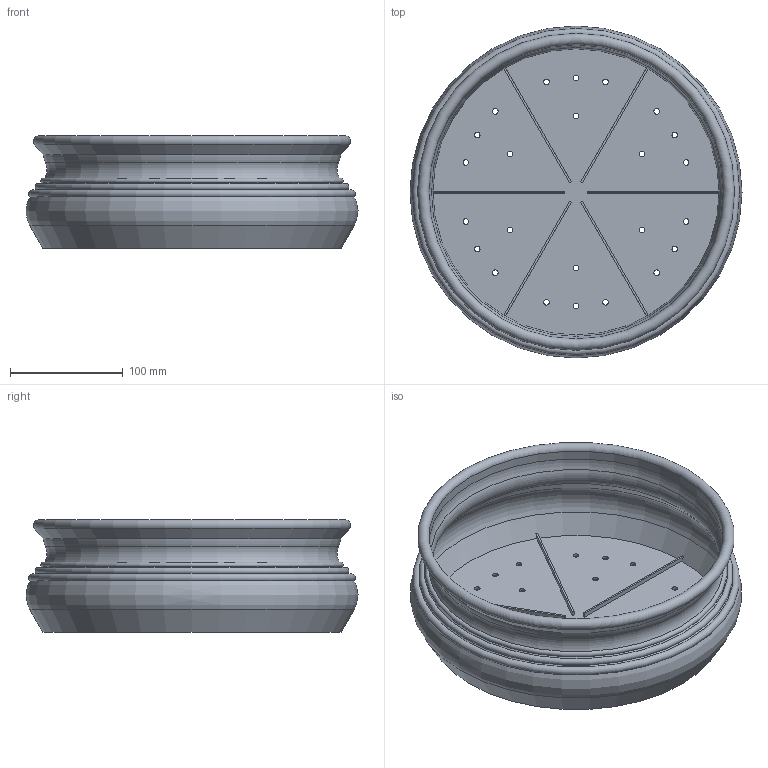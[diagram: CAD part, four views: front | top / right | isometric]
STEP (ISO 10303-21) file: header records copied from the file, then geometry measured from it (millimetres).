
FILE_DESCRIPTION(/* description */ (''),/* implementation_level */ '2;1');
FILE_NAME(/* name */ 'LR2406-S17-H100-D300_step.step',/* time_stamp */ '2024-02-01T11:03:12+01:00',/* author */ (''),/* organization */ (''),/* preprocessor_version */ 'ST-DEVELOPER v20',/* originating_system */ 'Autodesk Translation Framework v12.20.1.177',/* authorisation */ '');
FILE_SCHEMA (('AUTOMOTIVE_DESIGN { 1 0 10303 214 3 1 1 }'));
Length unit declared in the file: millimetre
Products named in the file (1): LR2406-S17-H100-D300
Bounding box: 294.72 x 294.72 x 100 mm (x, y, z)
Volume: 383078 mm3; surface area: 316676.3 mm2
Topology: 1 solids, 1 shells, 67 faces, 179 edges, 114 vertices
Faces by surface type: cylinder 31, plane 20, torus 10, cone 6
Full cylindrical faces by diameter (mm): 5 x24, 261.36 x1
Entity records: 2261 total; most frequent: DIRECTION 415, CARTESIAN_POINT 361, ORIENTED_EDGE 358, EDGE_CURVE 179, AXIS2_PLACEMENT_3D 168, EDGE_LOOP 115, VERTEX_POINT 114, CIRCLE 100
